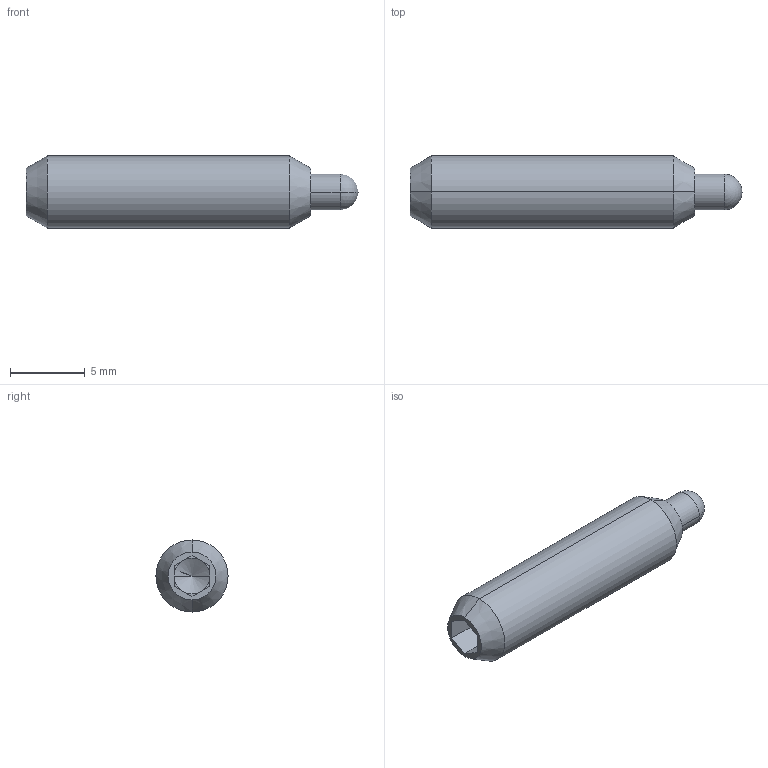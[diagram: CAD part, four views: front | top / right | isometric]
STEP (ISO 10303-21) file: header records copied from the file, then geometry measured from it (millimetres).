
FILE_DESCRIPTION (( 'STEP AP203' ), '1' );
FILE_NAME ('3B20.W340.step', '2009-10-12T14:02:03', ( 'Wixroyd' ), ( 'Wixroyd' ), 'SwSTEP 2.0', 'SolidWorks 2009', '' );
FILE_SCHEMA (( 'CONFIG_CONTROL_DESIGN' ));
Length unit declared in the file: inch
Products named in the file (3): Part1_3B20.W340; Part2_3B20.W340; 3B20.W340
Assembly tree (2 placements, depth 2):
  3B20.W340
    Part2_3B20.W340
    Part1_3B20.W340
Bounding box: 22.23 x 4.83 x 4.83 mm (x, y, z)
Volume: 234.8 mm3; surface area: 542.1 mm2
Topology: 2 solids, 2 shells, 43 faces, 92 edges, 52 vertices
Faces by surface type: plane 17, cylinder 12, cone 12, sphere 2
Entity records: 1413 total; most frequent: DIRECTION 220, CARTESIAN_POINT 184, ORIENTED_EDGE 172, EDGE_CURVE 86, AXIS2_PLACEMENT_3D 86, VERTEX_POINT 50, VECTOR 48, LINE 48
